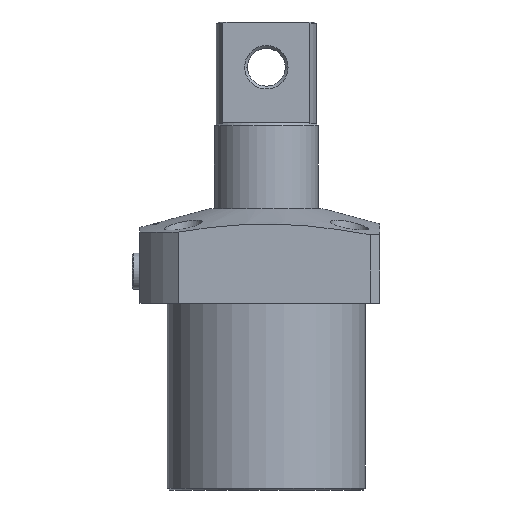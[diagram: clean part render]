
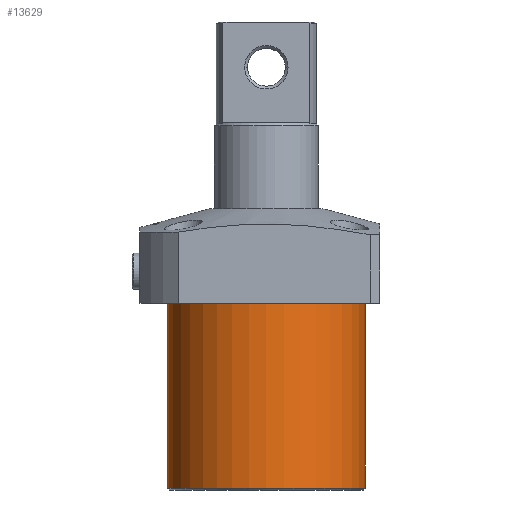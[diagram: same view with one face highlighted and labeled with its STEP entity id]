
A CAD part, front view. The second image highlights one B-rep face of the part: STEP entity #13629.
In plain terms, the highlighted cylindrical face has radius 52.5 mm (diameter 105 mm), a partial arc.
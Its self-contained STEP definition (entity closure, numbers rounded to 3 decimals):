
#189 = EDGE_CURVE ( 'NONE', #6407, #6155, #10177, .T. ) ;
#744 = CARTESIAN_POINT ( 'NONE',  ( -52.5, 0., -99. ) ) ;
#1342 = ORIENTED_EDGE ( 'NONE', *, *, #11404, .T. ) ;
#1458 = DIRECTION ( 'NONE',  ( 0., 0., -1. ) ) ;
#1762 = VERTEX_POINT ( 'NONE', #12319 ) ;
#1884 = ORIENTED_EDGE ( 'NONE', *, *, #7163, .T. ) ;
#1955 = DIRECTION ( 'NONE',  ( 0., 0., 1. ) ) ;
#2000 = CIRCLE ( 'NONE', #11964, 52.5 ) ;
#2261 = CYLINDRICAL_SURFACE ( 'NONE', #7407, 52.5 ) ;
#2316 = CARTESIAN_POINT ( 'NONE',  ( 52.5, 0., -99. ) ) ;
#3197 = DIRECTION ( 'NONE',  ( 1., 0., 0. ) ) ;
#3910 = EDGE_LOOP ( 'NONE', ( #7982, #8113, #1884, #1342 ) ) ;
#4554 = AXIS2_PLACEMENT_3D ( 'NONE', #8656, #1458, #9918 ) ;
#5417 = CARTESIAN_POINT ( 'NONE',  ( -52.5, 0., -98. ) ) ;
#6155 = VERTEX_POINT ( 'NONE', #14646 ) ;
#6407 = VERTEX_POINT ( 'NONE', #5417 ) ;
#6678 = DIRECTION ( 'NONE',  ( 0., 0., 1. ) ) ;
#6855 = VECTOR ( 'NONE', #12134, 1000. ) ;
#6975 = EDGE_CURVE ( 'NONE', #6407, #1762, #2000, .T. ) ;
#7163 = EDGE_CURVE ( 'NONE', #1762, #15557, #13504, .T. ) ;
#7407 = AXIS2_PLACEMENT_3D ( 'NONE', #10484, #9250, #3197 ) ;
#7982 = ORIENTED_EDGE ( 'NONE', *, *, #189, .F. ) ;
#8113 = ORIENTED_EDGE ( 'NONE', *, *, #6975, .T. ) ;
#8656 = CARTESIAN_POINT ( 'NONE',  ( 0., 0., 0. ) ) ;
#8660 = FACE_OUTER_BOUND ( 'NONE', #3910, .T. ) ;
#9095 = CIRCLE ( 'NONE', #4554, 52.5 ) ;
#9193 = CARTESIAN_POINT ( 'NONE',  ( 0., 0., -98. ) ) ;
#9250 = DIRECTION ( 'NONE',  ( 0., 0., 1. ) ) ;
#9416 = VECTOR ( 'NONE', #6678, 1000. ) ;
#9918 = DIRECTION ( 'NONE',  ( -1., 0., 0. ) ) ;
#10177 = LINE ( 'NONE', #744, #9416 ) ;
#10434 = DIRECTION ( 'NONE',  ( -1., 0., 0. ) ) ;
#10484 = CARTESIAN_POINT ( 'NONE',  ( 0., 0., -99. ) ) ;
#11404 = EDGE_CURVE ( 'NONE', #15557, #6155, #9095, .T. ) ;
#11964 = AXIS2_PLACEMENT_3D ( 'NONE', #9193, #1955, #10434 ) ;
#12134 = DIRECTION ( 'NONE',  ( 0., 0., 1. ) ) ;
#12319 = CARTESIAN_POINT ( 'NONE',  ( 52.5, 0., -98. ) ) ;
#12377 = CARTESIAN_POINT ( 'NONE',  ( 52.5, 0., 0. ) ) ;
#13504 = LINE ( 'NONE', #2316, #6855 ) ;
#13629 = ADVANCED_FACE ( 'NONE', ( #8660 ), #2261, .T. ) ;
#14646 = CARTESIAN_POINT ( 'NONE',  ( -52.5, 0., 0. ) ) ;
#15557 = VERTEX_POINT ( 'NONE', #12377 ) ;
